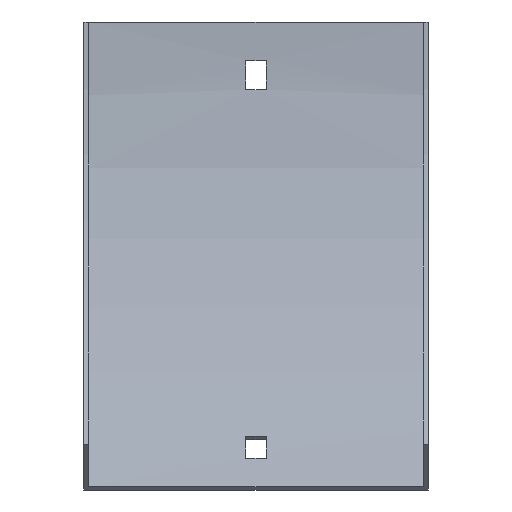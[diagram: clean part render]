
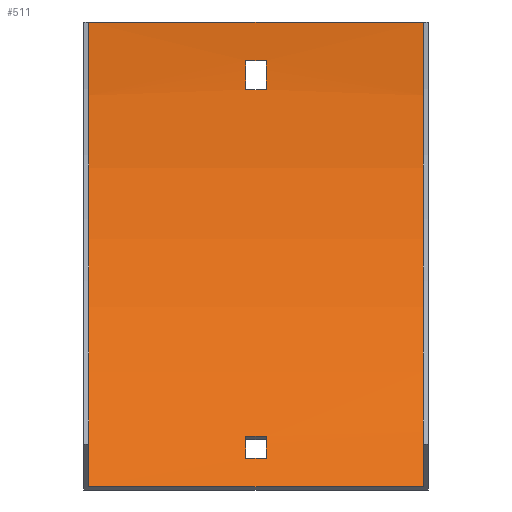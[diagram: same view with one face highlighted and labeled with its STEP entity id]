
A CAD part, front view. The second image highlights one B-rep face of the part: STEP entity #511.
In plain terms, the highlighted cylindrical face has radius 204 mm (diameter 408 mm), a partial arc.
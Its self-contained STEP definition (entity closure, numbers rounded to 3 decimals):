
#1 = VERTEX_POINT ( 'NONE', #45 ) ;
#8 = DIRECTION ( 'NONE',  ( -1., 0., 0. ) ) ;
#12 = DIRECTION ( 'NONE',  ( 1., 0., 0. ) ) ;
#13 = CIRCLE ( 'NONE', #566, 204. ) ;
#14 = ORIENTED_EDGE ( 'NONE', *, *, #190, .F. ) ;
#15 = AXIS2_PLACEMENT_3D ( 'NONE', #514, #469, #144 ) ;
#19 = ORIENTED_EDGE ( 'NONE', *, *, #125, .F. ) ;
#26 = DIRECTION ( 'NONE',  ( -1., 0., 0. ) ) ;
#34 = CARTESIAN_POINT ( 'NONE',  ( 3.25, -47.167, -128.634 ) ) ;
#39 = LINE ( 'NONE', #604, #385 ) ;
#40 = EDGE_CURVE ( 'NONE', #340, #380, #199, .T. ) ;
#42 = CARTESIAN_POINT ( 'NONE',  ( -52., -205.5, 0. ) ) ;
#45 = CARTESIAN_POINT ( 'NONE',  ( -52., -61.25, -144.25 ) ) ;
#48 = CARTESIAN_POINT ( 'NONE',  ( 3.25, -2.584, -21. ) ) ;
#50 = CARTESIAN_POINT ( 'NONE',  ( -3.25, -2.584, -21. ) ) ;
#52 = ORIENTED_EDGE ( 'NONE', *, *, #412, .T. ) ;
#76 = EDGE_CURVE ( 'NONE', #498, #586, #399, .T. ) ;
#84 = ORIENTED_EDGE ( 'NONE', *, *, #76, .T. ) ;
#94 = CIRCLE ( 'NONE', #599, 204. ) ;
#95 = CARTESIAN_POINT ( 'NONE',  ( 52., -61.25, -144.25 ) ) ;
#99 = DIRECTION ( 'NONE',  ( -1., 0., 0. ) ) ;
#112 = ORIENTED_EDGE ( 'NONE', *, *, #40, .T. ) ;
#113 = DIRECTION ( 'NONE',  ( 0., 0., -1. ) ) ;
#125 = EDGE_CURVE ( 'NONE', #351, #164, #13, .T. ) ;
#134 = EDGE_CURVE ( 'NONE', #212, #424, #578, .T. ) ;
#144 = DIRECTION ( 'NONE',  ( 0., 0., 1. ) ) ;
#148 = EDGE_CURVE ( 'NONE', #567, #1, #236, .T. ) ;
#149 = EDGE_CURVE ( 'NONE', #424, #351, #375, .T. ) ;
#159 = CARTESIAN_POINT ( 'NONE',  ( -3.25, -53.015, -135.515 ) ) ;
#162 = CARTESIAN_POINT ( 'NONE',  ( 52., -1.5, 0. ) ) ;
#164 = VERTEX_POINT ( 'NONE', #505 ) ;
#170 = FACE_OUTER_BOUND ( 'NONE', #345, .T. ) ;
#174 = CARTESIAN_POINT ( 'NONE',  ( 52., -1.5, 0. ) ) ;
#176 = AXIS2_PLACEMENT_3D ( 'NONE', #525, #12, #113 ) ;
#178 = ORIENTED_EDGE ( 'NONE', *, *, #555, .T. ) ;
#190 = EDGE_CURVE ( 'NONE', #164, #212, #593, .T. ) ;
#192 = VERTEX_POINT ( 'NONE', #174 ) ;
#199 = CIRCLE ( 'NONE', #176, 204. ) ;
#211 = FACE_BOUND ( 'NONE', #262, .T. ) ;
#212 = VERTEX_POINT ( 'NONE', #300 ) ;
#236 = LINE ( 'NONE', #367, #433 ) ;
#262 = EDGE_LOOP ( 'NONE', ( #565, #14, #19, #288 ) ) ;
#265 = CARTESIAN_POINT ( 'NONE',  ( 3.25, -53.015, -135.515 ) ) ;
#266 = DIRECTION ( 'NONE',  ( 1., 0., 0. ) ) ;
#272 = CARTESIAN_POINT ( 'NONE',  ( -3.25, -205.5, 0. ) ) ;
#275 = LINE ( 'NONE', #550, #374 ) ;
#288 = ORIENTED_EDGE ( 'NONE', *, *, #149, .F. ) ;
#300 = CARTESIAN_POINT ( 'NONE',  ( -3.25, -1.853, -12. ) ) ;
#301 = CYLINDRICAL_SURFACE ( 'NONE', #569, 204. ) ;
#304 = DIRECTION ( 'NONE',  ( -1., 0., 0. ) ) ;
#321 = AXIS2_PLACEMENT_3D ( 'NONE', #272, #99, #372 ) ;
#323 = EDGE_CURVE ( 'NONE', #586, #340, #39, .T. ) ;
#328 = CARTESIAN_POINT ( 'NONE',  ( -52., -1.5, 0. ) ) ;
#340 = VERTEX_POINT ( 'NONE', #159 ) ;
#342 = DIRECTION ( 'NONE',  ( -1., 0., 0. ) ) ;
#345 = EDGE_LOOP ( 'NONE', ( #584, #542, #52, #497 ) ) ;
#348 = VECTOR ( 'NONE', #342, 1000. ) ;
#351 = VERTEX_POINT ( 'NONE', #48 ) ;
#362 = VECTOR ( 'NONE', #266, 1000. ) ;
#364 = VERTEX_POINT ( 'NONE', #328 ) ;
#367 = CARTESIAN_POINT ( 'NONE',  ( 52., -61.25, -144.25 ) ) ;
#369 = DIRECTION ( 'NONE',  ( -1., 0., 0. ) ) ;
#370 = DIRECTION ( 'NONE',  ( 1., 0., 0. ) ) ;
#372 = DIRECTION ( 'NONE',  ( 0., 0., 1. ) ) ;
#373 = ORIENTED_EDGE ( 'NONE', *, *, #323, .T. ) ;
#374 = VECTOR ( 'NONE', #370, 1000. ) ;
#375 = LINE ( 'NONE', #423, #362 ) ;
#378 = DIRECTION ( 'NONE',  ( -1., 0., 0. ) ) ;
#380 = VERTEX_POINT ( 'NONE', #517 ) ;
#381 = DIRECTION ( 'NONE',  ( 0., 0., -1. ) ) ;
#385 = VECTOR ( 'NONE', #369, 1000. ) ;
#392 = LINE ( 'NONE', #162, #348 ) ;
#398 = DIRECTION ( 'NONE',  ( 0., 0., 1. ) ) ;
#399 = CIRCLE ( 'NONE', #474, 204. ) ;
#412 = EDGE_CURVE ( 'NONE', #567, #192, #530, .T. ) ;
#423 = CARTESIAN_POINT ( 'NONE',  ( 53.5, -2.584, -21. ) ) ;
#424 = VERTEX_POINT ( 'NONE', #50 ) ;
#433 = VECTOR ( 'NONE', #8, 1000. ) ;
#439 = VECTOR ( 'NONE', #304, 1000. ) ;
#444 = CARTESIAN_POINT ( 'NONE',  ( 53.5, -205.5, 0. ) ) ;
#454 = DIRECTION ( 'NONE',  ( 0., 0., 1. ) ) ;
#469 = DIRECTION ( 'NONE',  ( 1., 0., 0. ) ) ;
#474 = AXIS2_PLACEMENT_3D ( 'NONE', #579, #378, #508 ) ;
#492 = EDGE_LOOP ( 'NONE', ( #373, #112, #178, #84 ) ) ;
#493 = CARTESIAN_POINT ( 'NONE',  ( 53.5, -1.853, -12. ) ) ;
#497 = ORIENTED_EDGE ( 'NONE', *, *, #521, .T. ) ;
#498 = VERTEX_POINT ( 'NONE', #34 ) ;
#505 = CARTESIAN_POINT ( 'NONE',  ( 3.25, -1.853, -12. ) ) ;
#508 = DIRECTION ( 'NONE',  ( 0., 0., 1. ) ) ;
#511 = ADVANCED_FACE ( 'NONE', ( #211, #170, #536 ), #301, .F. ) ;
#512 = DIRECTION ( 'NONE',  ( 1., 0., 0. ) ) ;
#514 = CARTESIAN_POINT ( 'NONE',  ( 52., -205.5, 0. ) ) ;
#517 = CARTESIAN_POINT ( 'NONE',  ( -3.25, -47.167, -128.634 ) ) ;
#521 = EDGE_CURVE ( 'NONE', #192, #364, #392, .T. ) ;
#525 = CARTESIAN_POINT ( 'NONE',  ( -3.25, -205.5, 0. ) ) ;
#530 = CIRCLE ( 'NONE', #15, 204. ) ;
#536 = FACE_BOUND ( 'NONE', #492, .T. ) ;
#542 = ORIENTED_EDGE ( 'NONE', *, *, #148, .F. ) ;
#550 = CARTESIAN_POINT ( 'NONE',  ( 53.5, -47.167, -128.634 ) ) ;
#555 = EDGE_CURVE ( 'NONE', #380, #498, #275, .T. ) ;
#565 = ORIENTED_EDGE ( 'NONE', *, *, #134, .F. ) ;
#566 = AXIS2_PLACEMENT_3D ( 'NONE', #607, #512, #381 ) ;
#567 = VERTEX_POINT ( 'NONE', #95 ) ;
#569 = AXIS2_PLACEMENT_3D ( 'NONE', #444, #26, #398 ) ;
#578 = CIRCLE ( 'NONE', #321, 204. ) ;
#579 = CARTESIAN_POINT ( 'NONE',  ( 3.25, -205.5, 0. ) ) ;
#584 = ORIENTED_EDGE ( 'NONE', *, *, #606, .F. ) ;
#586 = VERTEX_POINT ( 'NONE', #265 ) ;
#593 = LINE ( 'NONE', #493, #439 ) ;
#595 = DIRECTION ( 'NONE',  ( 1., 0., 0. ) ) ;
#599 = AXIS2_PLACEMENT_3D ( 'NONE', #42, #595, #454 ) ;
#604 = CARTESIAN_POINT ( 'NONE',  ( 53.5, -53.015, -135.515 ) ) ;
#606 = EDGE_CURVE ( 'NONE', #1, #364, #94, .T. ) ;
#607 = CARTESIAN_POINT ( 'NONE',  ( 3.25, -205.5, 0. ) ) ;
